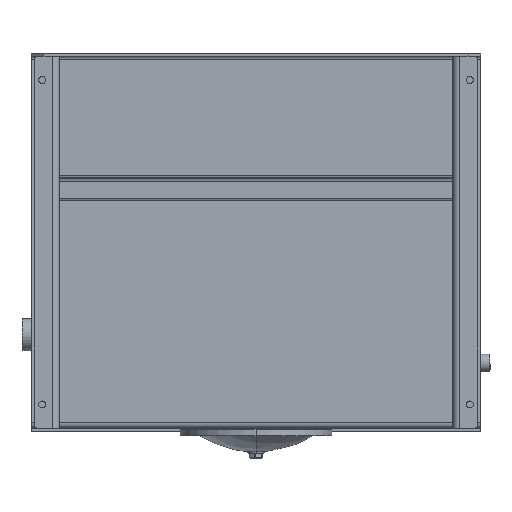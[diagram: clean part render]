
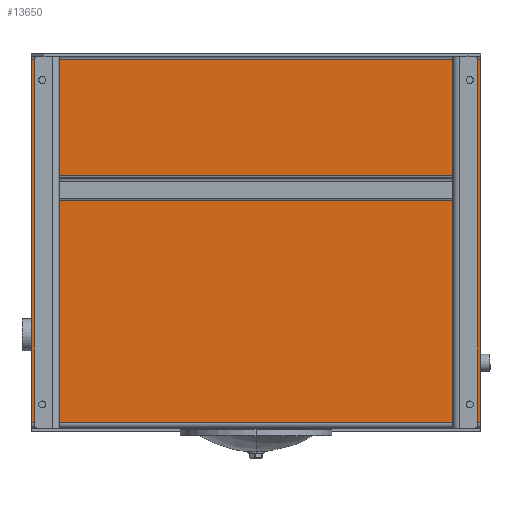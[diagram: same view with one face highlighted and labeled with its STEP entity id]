
A CAD part, front view. The second image highlights one B-rep face of the part: STEP entity #13650.
In plain terms, the highlighted planar face has unit normal (0, -1, 0).
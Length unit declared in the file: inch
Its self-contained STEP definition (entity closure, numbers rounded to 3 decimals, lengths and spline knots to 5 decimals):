
#732 = ORIENTED_EDGE ( 'NONE', *, *, #3663, .F. ) ;
#1220 = CARTESIAN_POINT ( 'NONE',  ( 10.89345, -9.78149, 19.46448 ) ) ;
#3011 = EDGE_CURVE ( 'NONE', #13951, #7647, #10522, .T. ) ;
#3663 = EDGE_CURVE ( 'NONE', #11256, #22263, #18269, .T. ) ;
#5002 = FACE_OUTER_BOUND ( 'NONE', #22371, .T. ) ;
#5342 = VECTOR ( 'NONE', #18374, 39.37008 ) ;
#5667 = CARTESIAN_POINT ( 'NONE',  ( -25.10655, -9.78149, -10.10622 ) ) ;
#6727 = CARTESIAN_POINT ( 'NONE',  ( -25.10655, -9.78149, 19.46448 ) ) ;
#7444 = DIRECTION ( 'NONE',  ( 0., 0., -1. ) ) ;
#7626 = VECTOR ( 'NONE', #11884, 39.37008 ) ;
#7647 = VERTEX_POINT ( 'NONE', #21735 ) ;
#8088 = CARTESIAN_POINT ( 'NONE',  ( -25.10655, -9.78149, 19.46448 ) ) ;
#8617 = DIRECTION ( 'NONE',  ( 0., 0., -1. ) ) ;
#10522 = LINE ( 'NONE', #20195, #18560 ) ;
#11061 = ORIENTED_EDGE ( 'NONE', *, *, #3011, .F. ) ;
#11256 = VERTEX_POINT ( 'NONE', #18862 ) ;
#11784 = ORIENTED_EDGE ( 'NONE', *, *, #17304, .T. ) ;
#11884 = DIRECTION ( 'NONE',  ( 1., 0., 0. ) ) ;
#13650 = ADVANCED_FACE ( 'NONE', ( #5002 ), #20717, .T. ) ;
#13730 = VECTOR ( 'NONE', #21821, 39.37008 ) ;
#13951 = VERTEX_POINT ( 'NONE', #1220 ) ;
#14011 = LINE ( 'NONE', #8088, #5342 ) ;
#15009 = ORIENTED_EDGE ( 'NONE', *, *, #20727, .F. ) ;
#16931 = CARTESIAN_POINT ( 'NONE',  ( -25.10655, -9.78149, -9.67692 ) ) ;
#17304 = EDGE_CURVE ( 'NONE', #11256, #7647, #21215, .T. ) ;
#17715 = DIRECTION ( 'NONE',  ( 0., -1., 0. ) ) ;
#18269 = LINE ( 'NONE', #22332, #13730 ) ;
#18294 = AXIS2_PLACEMENT_3D ( 'NONE', #5667, #17715, #7444 ) ;
#18374 = DIRECTION ( 'NONE',  ( 1., 0., 0. ) ) ;
#18560 = VECTOR ( 'NONE', #8617, 39.37008 ) ;
#18862 = CARTESIAN_POINT ( 'NONE',  ( -25.10655, -9.78149, -9.67692 ) ) ;
#20195 = CARTESIAN_POINT ( 'NONE',  ( 10.89345, -9.78149, 19.89378 ) ) ;
#20717 = PLANE ( 'NONE',  #18294 ) ;
#20727 = EDGE_CURVE ( 'NONE', #22263, #13951, #14011, .T. ) ;
#21215 = LINE ( 'NONE', #16931, #7626 ) ;
#21735 = CARTESIAN_POINT ( 'NONE',  ( 10.89345, -9.78149, -9.67692 ) ) ;
#21821 = DIRECTION ( 'NONE',  ( 0., 0., 1. ) ) ;
#22263 = VERTEX_POINT ( 'NONE', #6727 ) ;
#22332 = CARTESIAN_POINT ( 'NONE',  ( -25.10655, -9.78149, 19.89378 ) ) ;
#22371 = EDGE_LOOP ( 'NONE', ( #732, #11784, #11061, #15009 ) ) ;
